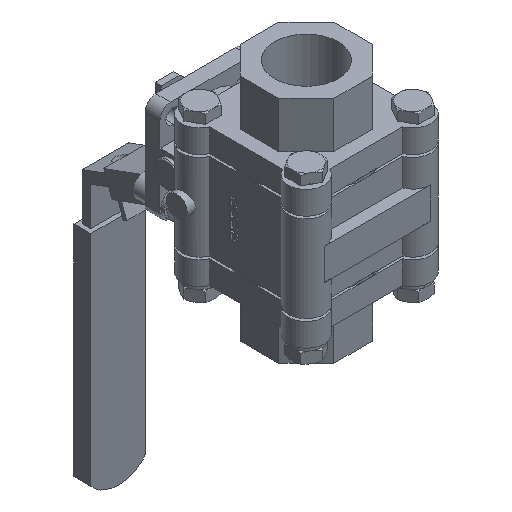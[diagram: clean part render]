
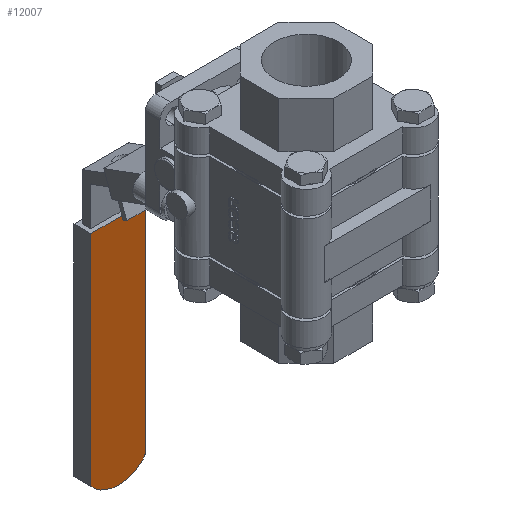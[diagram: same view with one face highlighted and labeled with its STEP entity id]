
A CAD part, isometric view. The second image highlights one B-rep face of the part: STEP entity #12007.
In plain terms, the highlighted planar face has unit normal (0, -1, 0).
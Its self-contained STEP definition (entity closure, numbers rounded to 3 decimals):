
#529=PLANE('',#12847);
#1232=FACE_OUTER_BOUND('',#1930,.T.);
#1930=EDGE_LOOP('',(#8918,#8919,#8920,#8921));
#2669=CIRCLE('',#12845,17.);
#3352=LINE('',#18174,#4407);
#3354=LINE('',#18178,#4409);
#3355=LINE('',#18179,#4410);
#4407=VECTOR('',#14622,10.);
#4409=VECTOR('',#14626,10.);
#4410=VECTOR('',#14627,10.);
#5501=VERTEX_POINT('',#18167);
#5502=VERTEX_POINT('',#18168);
#5503=VERTEX_POINT('',#18173);
#5504=VERTEX_POINT('',#18177);
#6788=EDGE_CURVE('',#5501,#5502,#2669,.T.);
#6791=EDGE_CURVE('',#5503,#5501,#3352,.T.);
#6793=EDGE_CURVE('',#5504,#5502,#3354,.T.);
#6794=EDGE_CURVE('',#5503,#5504,#3355,.T.);
#8918=ORIENTED_EDGE('',*,*,#6788,.T.);
#8919=ORIENTED_EDGE('',*,*,#6793,.F.);
#8920=ORIENTED_EDGE('',*,*,#6794,.F.);
#8921=ORIENTED_EDGE('',*,*,#6791,.T.);
#12007=ADVANCED_FACE('',(#1232),#529,.T.);
#12845=AXIS2_PLACEMENT_3D('',#18169,#14616,#14617);
#12847=AXIS2_PLACEMENT_3D('',#18176,#14624,#14625);
#14616=DIRECTION('center_axis',(0.,-1.,0.));
#14617=DIRECTION('ref_axis',(0.765,0.,-0.644));
#14622=DIRECTION('',(0.,0.,-1.));
#14624=DIRECTION('center_axis',(0.,-1.,0.));
#14625=DIRECTION('ref_axis',(-1.,0.,0.));
#14626=DIRECTION('',(0.,0.,-1.));
#14627=DIRECTION('',(1.,0.,0.));
#18167=CARTESIAN_POINT('',(-0.553,69.336,-158.954));
#18168=CARTESIAN_POINT('',(25.447,69.336,-158.954));
#18169=CARTESIAN_POINT('Origin',(12.447,69.336,-148.));
#18173=CARTESIAN_POINT('',(-0.553,69.336,-55.));
#18174=CARTESIAN_POINT('',(-0.553,69.336,-55.));
#18176=CARTESIAN_POINT('Origin',(25.447,69.336,-55.));
#18177=CARTESIAN_POINT('',(25.447,69.336,-55.));
#18178=CARTESIAN_POINT('',(25.447,69.336,-55.));
#18179=CARTESIAN_POINT('',(-0.553,69.336,-55.));
